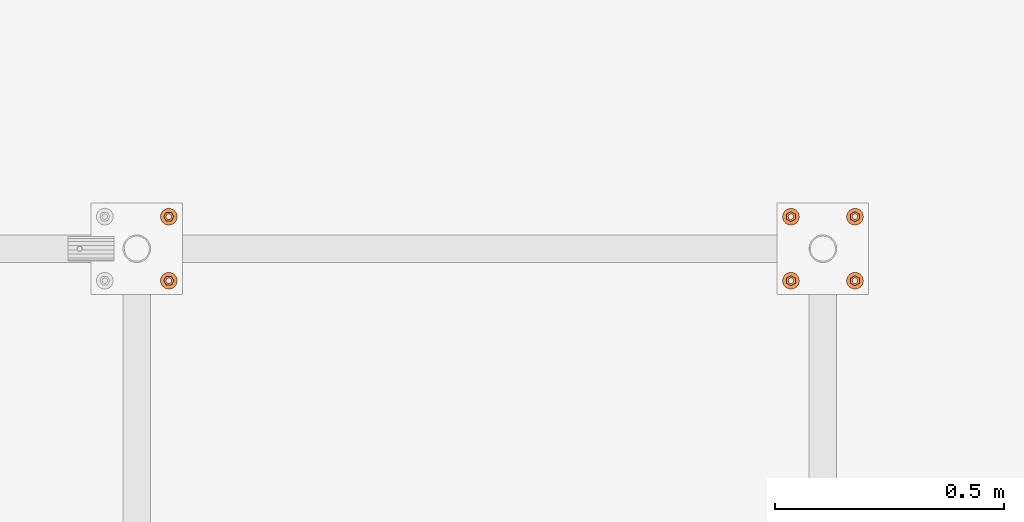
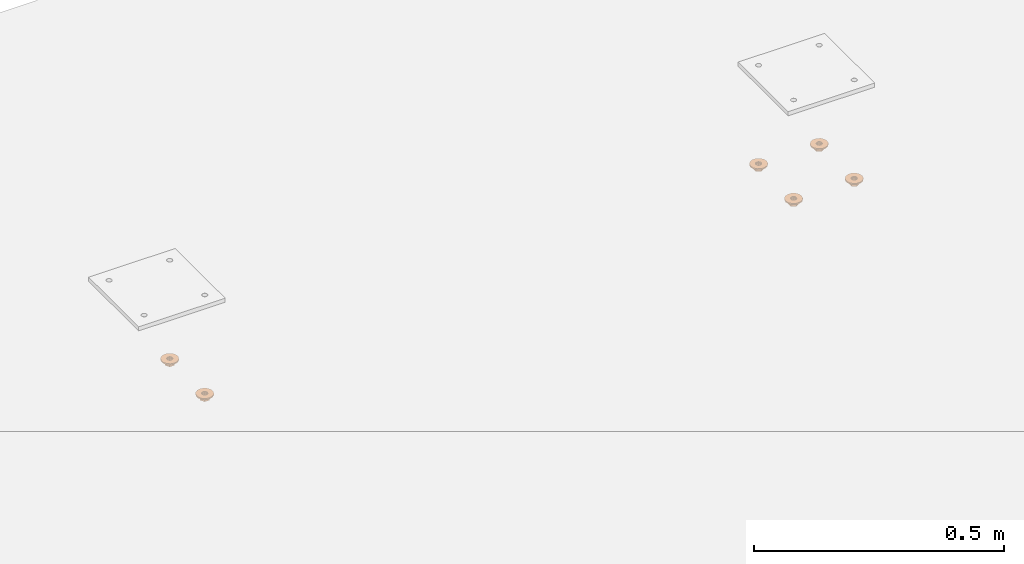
# One storey, part 30 of 30: 12 proxies.
"""IFC2X3 building model written with IfcOpenShell, lengths in millimetres."""

from ifc_helpers import new_model, entity, si_unit, converted_unit, origin_with_axes, place, context, project, spatial, faceted_brep, material, element, save


model = new_model("IFC2X3")

# Units and contexts
model_context = context("Model", 3, precision=1e-09, world=origin_with_axes())
ifc_project = project(units=[si_unit("LENGTHUNIT", "METRE", prefix="MILLI"), si_unit("AREAUNIT", "SQUARE_METRE"), si_unit("VOLUMEUNIT", "CUBIC_METRE"), converted_unit("PLANEANGLEUNIT", "DEGREE", entity("IfcPlaneAngleMeasure", 0.01745329), si_unit("PLANEANGLEUNIT", "RADIAN"), dimensions=[0, 0, 0, 0, 0, 0, 0])], contexts=[model_context])

# Site, building, storey
site_placement = place(None, origin_with_axes())
site = spatial("IfcSite", under=ifc_project, at=site_placement, Name="M?nsinger Stra?e, 81477 M?nchen", CompositionType="ELEMENT")
building_placement = place(site_placement, origin_with_axes())
building = spatial("IfcBuilding", under=site, at=building_placement, Name="Struktur 1", CompositionType="ELEMENT")
storey_placement = place(building_placement, origin_with_axes())
storey = spatial("IfcBuildingStorey", under=building, at=storey_placement, Name="Default Storey", CompositionType="ELEMENT", Elevation=0.0)

# Proxies
ifc_material = material(Name="Kein")
proxy_1_placement = place(None, origin_with_axes())
element("IfcBuildingElementProxy", 1, at=proxy_1_placement, inside=storey, material=ifc_material, ObjectType="-", context=model_context, shape_type="Brep", body=[
    faceted_brep([(8842.315117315, 4421.2632594, 6512.0), (8842.315117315, 4421.2632594, 6502.0), (8841.511269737, 4418.2632594, 6502.0), (8841.511269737, 4418.2632594, 6512.0), (8839.315117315, 4416.067106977, 6502.0), (8839.315117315, 4416.067106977, 6512.0), (8841.511269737, 4424.2632594, 6512.0), (8841.511269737, 4424.2632594, 6502.0), (8845.815117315, 4426.748086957, 6512.0), (8836.315117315, 4432.232914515, 6512.0), (8826.815117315, 4426.748086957, 6512.0), (8826.815117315, 4415.778431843, 6512.0), (8836.315117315, 4410.293604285, 6512.0), (8845.815117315, 4415.778431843, 6512.0), (8839.315117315, 4426.459411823, 6512.0), (8836.315117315, 4415.2632594, 6512.0), (8833.315117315, 4416.067106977, 6512.0), (8831.118964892, 4418.2632594, 6512.0), (8830.315117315, 4421.2632594, 6512.0), (8831.118964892, 4424.2632594, 6512.0), (8833.315117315, 4426.459411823, 6512.0), (8836.315117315, 4427.2632594, 6512.0), (8836.315117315, 4432.232914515, 6502.0), (8845.815117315, 4426.748086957, 6502.0), (8845.815117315, 4415.778431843, 6502.0), (8836.315117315, 4410.293604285, 6502.0), (8826.815117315, 4415.778431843, 6502.0), (8826.815117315, 4426.748086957, 6502.0), (8839.315117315, 4426.459411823, 6502.0), (8836.315117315, 4427.2632594, 6502.0), (8833.315117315, 4426.459411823, 6502.0), (8831.118964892, 4424.2632594, 6502.0), (8830.315117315, 4421.2632594, 6502.0), (8831.118964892, 4418.2632594, 6502.0), (8833.315117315, 4416.067106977, 6502.0), (8836.315117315, 4415.2632594, 6502.0)], [[[0, 1, 2, 3]], [[3, 2, 4, 5]], [[1, 0, 6, 7]], [[8, 9, 10, 11, 12, 13], [14, 6, 0, 3, 5, 15, 16, 17, 18, 19, 20, 21]], [[22, 23, 24, 25, 26, 27], [1, 7, 28, 29, 30, 31, 32, 33, 34, 35, 4, 2]], [[7, 6, 14, 28]], [[24, 23, 8, 13]], [[5, 4, 35, 15]], [[13, 12, 25, 24]], [[28, 14, 21, 29]], [[23, 22, 9, 8]], [[15, 35, 34, 16]], [[12, 11, 26, 25]], [[29, 21, 20, 30]], [[22, 27, 10, 9]], [[16, 34, 33, 17]], [[27, 26, 11, 10]], [[30, 20, 19, 31]], [[17, 33, 32, 18]], [[31, 19, 18, 32]]]),
])
proxy_2_placement = place(None, origin_with_axes())
element("IfcBuildingElementProxy", 2, at=proxy_2_placement, inside=storey, material=ifc_material, ObjectType="-", context=model_context, shape_type="Brep", body=[
    faceted_brep([(8847.849678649, 4406.799376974, 6515.0), (8847.849678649, 4406.799376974, 6512.0), (8852.983041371, 4413.236410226, 6512.0), (8852.983041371, 4413.236410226, 6515.0), (8832.198480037, 4403.227093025, 6515.0), (8840.431754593, 4403.227093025, 6515.0), (8854.815117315, 4421.2632594, 6515.0), (8852.983041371, 4429.290108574, 6515.0), (8847.849678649, 4435.727141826, 6515.0), (8840.431754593, 4439.299425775, 6515.0), (8832.198480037, 4439.299425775, 6515.0), (8824.78055598, 4435.727141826, 6515.0), (8819.647193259, 4429.290108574, 6515.0), (8817.815117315, 4421.2632594, 6515.0), (8819.647193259, 4413.236410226, 6515.0), (8824.78055598, 4406.799376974, 6515.0), (8839.565117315, 4415.634094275, 6515.0), (8836.315117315, 4414.7632594, 6515.0), (8833.065117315, 4415.634094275, 6515.0), (8830.68595219, 4418.0132594, 6515.0), (8829.815117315, 4421.2632594, 6515.0), (8830.68595219, 4424.5132594, 6515.0), (8833.065117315, 4426.892424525, 6515.0), (8836.315117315, 4427.7632594, 6515.0), (8839.565117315, 4426.892424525, 6515.0), (8841.944282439, 4424.5132594, 6515.0), (8842.815117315, 4421.2632594, 6515.0), (8841.944282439, 4418.0132594, 6515.0), (8852.983041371, 4429.290108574, 6512.0), (8854.815117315, 4421.2632594, 6512.0), (8840.431754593, 4403.227093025, 6512.0), (8832.198480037, 4403.227093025, 6512.0), (8824.78055598, 4406.799376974, 6512.0), (8819.647193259, 4413.236410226, 6512.0), (8817.815117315, 4421.2632594, 6512.0), (8819.647193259, 4429.290108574, 6512.0), (8824.78055598, 4435.727141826, 6512.0), (8832.198480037, 4439.299425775, 6512.0), (8840.431754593, 4439.299425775, 6512.0), (8847.849678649, 4435.727141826, 6512.0), (8842.815117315, 4421.2632594, 6512.0), (8841.944282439, 4424.5132594, 6512.0), (8839.565117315, 4426.892424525, 6512.0), (8836.315117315, 4427.7632594, 6512.0), (8833.065117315, 4426.892424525, 6512.0), (8830.68595219, 4424.5132594, 6512.0), (8829.815117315, 4421.2632594, 6512.0), (8830.68595219, 4418.0132594, 6512.0), (8833.065117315, 4415.634094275, 6512.0), (8836.315117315, 4414.7632594, 6512.0), (8839.565117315, 4415.634094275, 6512.0), (8841.944282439, 4418.0132594, 6512.0)], [[[0, 1, 2, 3]], [[4, 5, 0, 3, 6, 7, 8, 9, 10, 11, 12, 13, 14, 15], [16, 17, 18, 19, 20, 21, 22, 23, 24, 25, 26, 27]], [[28, 29, 2, 1, 30, 31, 32, 33, 34, 35, 36, 37, 38, 39], [40, 41, 42, 43, 44, 45, 46, 47, 48, 49, 50, 51]], [[1, 0, 5, 30]], [[27, 51, 50, 16]], [[51, 27, 26, 40]], [[3, 2, 29, 6]], [[30, 5, 4, 31]], [[16, 50, 49, 17]], [[40, 26, 25, 41]], [[6, 29, 28, 7]], [[31, 4, 15, 32]], [[17, 49, 48, 18]], [[41, 25, 24, 42]], [[7, 28, 39, 8]], [[32, 15, 14, 33]], [[18, 48, 47, 19]], [[42, 24, 23, 43]], [[8, 39, 38, 9]], [[33, 14, 13, 34]], [[19, 47, 46, 20]], [[22, 44, 43, 23]], [[9, 38, 37, 10]], [[45, 21, 20, 46]], [[44, 22, 21, 45]], [[34, 13, 12, 35]], [[10, 37, 36, 11]], [[35, 12, 11, 36]]]),
])
proxy_3_placement = place(None, origin_with_axes())
element("IfcBuildingElementProxy", 3, at=proxy_3_placement, inside=storey, material=ifc_material, ObjectType="-", context=model_context, shape_type="Brep", body=[
    faceted_brep([(8847.849678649, 4546.799376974, 6515.0), (8847.849678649, 4546.799376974, 6512.0), (8852.983041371, 4553.236410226, 6512.0), (8852.983041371, 4553.236410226, 6515.0), (8832.198480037, 4543.227093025, 6515.0), (8840.431754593, 4543.227093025, 6515.0), (8854.815117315, 4561.2632594, 6515.0), (8852.983041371, 4569.290108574, 6515.0), (8847.849678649, 4575.727141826, 6515.0), (8840.431754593, 4579.299425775, 6515.0), (8832.198480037, 4579.299425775, 6515.0), (8824.78055598, 4575.727141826, 6515.0), (8819.647193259, 4569.290108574, 6515.0), (8817.815117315, 4561.2632594, 6515.0), (8819.647193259, 4553.236410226, 6515.0), (8824.78055598, 4546.799376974, 6515.0), (8839.565117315, 4555.634094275, 6515.0), (8836.315117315, 4554.7632594, 6515.0), (8833.065117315, 4555.634094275, 6515.0), (8830.68595219, 4558.0132594, 6515.0), (8829.815117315, 4561.2632594, 6515.0), (8830.68595219, 4564.5132594, 6515.0), (8833.065117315, 4566.892424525, 6515.0), (8836.315117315, 4567.7632594, 6515.0), (8839.565117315, 4566.892424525, 6515.0), (8841.944282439, 4564.5132594, 6515.0), (8842.815117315, 4561.2632594, 6515.0), (8841.944282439, 4558.0132594, 6515.0), (8852.983041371, 4569.290108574, 6512.0), (8854.815117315, 4561.2632594, 6512.0), (8840.431754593, 4543.227093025, 6512.0), (8832.198480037, 4543.227093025, 6512.0), (8824.78055598, 4546.799376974, 6512.0), (8819.647193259, 4553.236410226, 6512.0), (8817.815117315, 4561.2632594, 6512.0), (8819.647193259, 4569.290108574, 6512.0), (8824.78055598, 4575.727141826, 6512.0), (8832.198480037, 4579.299425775, 6512.0), (8840.431754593, 4579.299425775, 6512.0), (8847.849678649, 4575.727141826, 6512.0), (8842.815117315, 4561.2632594, 6512.0), (8841.944282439, 4564.5132594, 6512.0), (8839.565117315, 4566.892424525, 6512.0), (8836.315117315, 4567.7632594, 6512.0), (8833.065117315, 4566.892424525, 6512.0), (8830.68595219, 4564.5132594, 6512.0), (8829.815117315, 4561.2632594, 6512.0), (8830.68595219, 4558.0132594, 6512.0), (8833.065117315, 4555.634094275, 6512.0), (8836.315117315, 4554.7632594, 6512.0), (8839.565117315, 4555.634094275, 6512.0), (8841.944282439, 4558.0132594, 6512.0)], [[[0, 1, 2, 3]], [[4, 5, 0, 3, 6, 7, 8, 9, 10, 11, 12, 13, 14, 15], [16, 17, 18, 19, 20, 21, 22, 23, 24, 25, 26, 27]], [[28, 29, 2, 1, 30, 31, 32, 33, 34, 35, 36, 37, 38, 39], [40, 41, 42, 43, 44, 45, 46, 47, 48, 49, 50, 51]], [[1, 0, 5, 30]], [[27, 51, 50, 16]], [[51, 27, 26, 40]], [[3, 2, 29, 6]], [[30, 5, 4, 31]], [[16, 50, 49, 17]], [[40, 26, 25, 41]], [[6, 29, 28, 7]], [[31, 4, 15, 32]], [[17, 49, 48, 18]], [[41, 25, 24, 42]], [[7, 28, 39, 8]], [[32, 15, 14, 33]], [[18, 48, 47, 19]], [[42, 24, 23, 43]], [[8, 39, 38, 9]], [[33, 14, 13, 34]], [[19, 47, 46, 20]], [[22, 44, 43, 23]], [[9, 38, 37, 10]], [[45, 21, 20, 46]], [[44, 22, 21, 45]], [[34, 13, 12, 35]], [[10, 37, 36, 11]], [[35, 12, 11, 36]]]),
])
proxy_4_placement = place(None, origin_with_axes())
element("IfcBuildingElementProxy", 4, at=proxy_4_placement, inside=storey, material=ifc_material, ObjectType="-", context=model_context, shape_type="Brep", body=[
    faceted_brep([(8842.315117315, 4561.2632594, 6512.0), (8842.315117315, 4561.2632594, 6502.0), (8841.511269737, 4558.2632594, 6502.0), (8841.511269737, 4558.2632594, 6512.0), (8839.315117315, 4556.067106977, 6502.0), (8839.315117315, 4556.067106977, 6512.0), (8841.511269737, 4564.2632594, 6512.0), (8841.511269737, 4564.2632594, 6502.0), (8845.815117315, 4566.748086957, 6512.0), (8836.315117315, 4572.232914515, 6512.0), (8826.815117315, 4566.748086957, 6512.0), (8826.815117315, 4555.778431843, 6512.0), (8836.315117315, 4550.293604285, 6512.0), (8845.815117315, 4555.778431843, 6512.0), (8839.315117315, 4566.459411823, 6512.0), (8836.315117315, 4555.2632594, 6512.0), (8833.315117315, 4556.067106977, 6512.0), (8831.118964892, 4558.2632594, 6512.0), (8830.315117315, 4561.2632594, 6512.0), (8831.118964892, 4564.2632594, 6512.0), (8833.315117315, 4566.459411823, 6512.0), (8836.315117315, 4567.2632594, 6512.0), (8836.315117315, 4572.232914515, 6502.0), (8845.815117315, 4566.748086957, 6502.0), (8845.815117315, 4555.778431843, 6502.0), (8836.315117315, 4550.293604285, 6502.0), (8826.815117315, 4555.778431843, 6502.0), (8826.815117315, 4566.748086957, 6502.0), (8839.315117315, 4566.459411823, 6502.0), (8836.315117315, 4567.2632594, 6502.0), (8833.315117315, 4566.459411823, 6502.0), (8831.118964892, 4564.2632594, 6502.0), (8830.315117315, 4561.2632594, 6502.0), (8831.118964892, 4558.2632594, 6502.0), (8833.315117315, 4556.067106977, 6502.0), (8836.315117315, 4555.2632594, 6502.0)], [[[0, 1, 2, 3]], [[3, 2, 4, 5]], [[1, 0, 6, 7]], [[8, 9, 10, 11, 12, 13], [14, 6, 0, 3, 5, 15, 16, 17, 18, 19, 20, 21]], [[22, 23, 24, 25, 26, 27], [1, 7, 28, 29, 30, 31, 32, 33, 34, 35, 4, 2]], [[7, 6, 14, 28]], [[24, 23, 8, 13]], [[5, 4, 35, 15]], [[13, 12, 25, 24]], [[28, 14, 21, 29]], [[23, 22, 9, 8]], [[15, 35, 34, 16]], [[12, 11, 26, 25]], [[29, 21, 20, 30]], [[22, 27, 10, 9]], [[16, 34, 33, 17]], [[27, 26, 11, 10]], [[30, 20, 19, 31]], [[17, 33, 32, 18]], [[31, 19, 18, 32]]]),
])
proxy_5_placement = place(None, origin_with_axes())
element("IfcBuildingElementProxy", 5, at=proxy_5_placement, inside=storey, material=ifc_material, ObjectType="-", context=model_context, shape_type="Brep", body=[
    faceted_brep([(8982.315117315, 4561.2632594, 6512.0), (8982.315117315, 4561.2632594, 6502.0), (8981.511269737, 4558.2632594, 6502.0), (8981.511269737, 4558.2632594, 6512.0), (8979.315117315, 4556.067106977, 6502.0), (8979.315117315, 4556.067106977, 6512.0), (8981.511269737, 4564.2632594, 6512.0), (8981.511269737, 4564.2632594, 6502.0), (8985.815117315, 4566.748086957, 6512.0), (8976.315117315, 4572.232914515, 6512.0), (8966.815117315, 4566.748086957, 6512.0), (8966.815117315, 4555.778431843, 6512.0), (8976.315117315, 4550.293604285, 6512.0), (8985.815117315, 4555.778431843, 6512.0), (8979.315117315, 4566.459411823, 6512.0), (8976.315117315, 4555.2632594, 6512.0), (8973.315117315, 4556.067106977, 6512.0), (8971.118964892, 4558.2632594, 6512.0), (8970.315117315, 4561.2632594, 6512.0), (8971.118964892, 4564.2632594, 6512.0), (8973.315117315, 4566.459411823, 6512.0), (8976.315117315, 4567.2632594, 6512.0), (8976.315117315, 4572.232914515, 6502.0), (8985.815117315, 4566.748086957, 6502.0), (8985.815117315, 4555.778431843, 6502.0), (8976.315117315, 4550.293604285, 6502.0), (8966.815117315, 4555.778431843, 6502.0), (8966.815117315, 4566.748086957, 6502.0), (8979.315117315, 4566.459411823, 6502.0), (8976.315117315, 4567.2632594, 6502.0), (8973.315117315, 4566.459411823, 6502.0), (8971.118964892, 4564.2632594, 6502.0), (8970.315117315, 4561.2632594, 6502.0), (8971.118964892, 4558.2632594, 6502.0), (8973.315117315, 4556.067106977, 6502.0), (8976.315117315, 4555.2632594, 6502.0)], [[[0, 1, 2, 3]], [[3, 2, 4, 5]], [[1, 0, 6, 7]], [[8, 9, 10, 11, 12, 13], [14, 6, 0, 3, 5, 15, 16, 17, 18, 19, 20, 21]], [[22, 23, 24, 25, 26, 27], [1, 7, 28, 29, 30, 31, 32, 33, 34, 35, 4, 2]], [[7, 6, 14, 28]], [[24, 23, 8, 13]], [[5, 4, 35, 15]], [[13, 12, 25, 24]], [[28, 14, 21, 29]], [[23, 22, 9, 8]], [[15, 35, 34, 16]], [[12, 11, 26, 25]], [[29, 21, 20, 30]], [[22, 27, 10, 9]], [[16, 34, 33, 17]], [[27, 26, 11, 10]], [[30, 20, 19, 31]], [[17, 33, 32, 18]], [[31, 19, 18, 32]]]),
])
proxy_6_placement = place(None, origin_with_axes())
element("IfcBuildingElementProxy", 6, at=proxy_6_placement, inside=storey, material=ifc_material, ObjectType="-", context=model_context, shape_type="Brep", body=[
    faceted_brep([(8987.849678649, 4546.799376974, 6515.0), (8987.849678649, 4546.799376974, 6512.0), (8992.983041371, 4553.236410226, 6512.0), (8992.983041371, 4553.236410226, 6515.0), (8972.198480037, 4543.227093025, 6515.0), (8980.431754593, 4543.227093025, 6515.0), (8994.815117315, 4561.2632594, 6515.0), (8992.983041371, 4569.290108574, 6515.0), (8987.849678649, 4575.727141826, 6515.0), (8980.431754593, 4579.299425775, 6515.0), (8972.198480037, 4579.299425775, 6515.0), (8964.78055598, 4575.727141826, 6515.0), (8959.647193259, 4569.290108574, 6515.0), (8957.815117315, 4561.2632594, 6515.0), (8959.647193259, 4553.236410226, 6515.0), (8964.78055598, 4546.799376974, 6515.0), (8979.565117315, 4555.634094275, 6515.0), (8976.315117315, 4554.7632594, 6515.0), (8973.065117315, 4555.634094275, 6515.0), (8970.68595219, 4558.0132594, 6515.0), (8969.815117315, 4561.2632594, 6515.0), (8970.68595219, 4564.5132594, 6515.0), (8973.065117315, 4566.892424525, 6515.0), (8976.315117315, 4567.7632594, 6515.0), (8979.565117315, 4566.892424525, 6515.0), (8981.944282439, 4564.5132594, 6515.0), (8982.815117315, 4561.2632594, 6515.0), (8981.944282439, 4558.0132594, 6515.0), (8992.983041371, 4569.290108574, 6512.0), (8994.815117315, 4561.2632594, 6512.0), (8980.431754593, 4543.227093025, 6512.0), (8972.198480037, 4543.227093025, 6512.0), (8964.78055598, 4546.799376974, 6512.0), (8959.647193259, 4553.236410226, 6512.0), (8957.815117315, 4561.2632594, 6512.0), (8959.647193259, 4569.290108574, 6512.0), (8964.78055598, 4575.727141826, 6512.0), (8972.198480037, 4579.299425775, 6512.0), (8980.431754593, 4579.299425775, 6512.0), (8987.849678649, 4575.727141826, 6512.0), (8982.815117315, 4561.2632594, 6512.0), (8981.944282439, 4564.5132594, 6512.0), (8979.565117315, 4566.892424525, 6512.0), (8976.315117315, 4567.7632594, 6512.0), (8973.065117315, 4566.892424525, 6512.0), (8970.68595219, 4564.5132594, 6512.0), (8969.815117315, 4561.2632594, 6512.0), (8970.68595219, 4558.0132594, 6512.0), (8973.065117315, 4555.634094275, 6512.0), (8976.315117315, 4554.7632594, 6512.0), (8979.565117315, 4555.634094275, 6512.0), (8981.944282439, 4558.0132594, 6512.0)], [[[0, 1, 2, 3]], [[4, 5, 0, 3, 6, 7, 8, 9, 10, 11, 12, 13, 14, 15], [16, 17, 18, 19, 20, 21, 22, 23, 24, 25, 26, 27]], [[28, 29, 2, 1, 30, 31, 32, 33, 34, 35, 36, 37, 38, 39], [40, 41, 42, 43, 44, 45, 46, 47, 48, 49, 50, 51]], [[1, 0, 5, 30]], [[27, 51, 50, 16]], [[51, 27, 26, 40]], [[3, 2, 29, 6]], [[30, 5, 4, 31]], [[16, 50, 49, 17]], [[40, 26, 25, 41]], [[6, 29, 28, 7]], [[31, 4, 15, 32]], [[17, 49, 48, 18]], [[41, 25, 24, 42]], [[7, 28, 39, 8]], [[32, 15, 14, 33]], [[18, 48, 47, 19]], [[42, 24, 23, 43]], [[8, 39, 38, 9]], [[33, 14, 13, 34]], [[19, 47, 46, 20]], [[22, 44, 43, 23]], [[9, 38, 37, 10]], [[45, 21, 20, 46]], [[44, 22, 21, 45]], [[34, 13, 12, 35]], [[10, 37, 36, 11]], [[35, 12, 11, 36]]]),
])
proxy_7_placement = place(None, origin_with_axes())
element("IfcBuildingElementProxy", 7, at=proxy_7_placement, inside=storey, material=ifc_material, ObjectType="-", context=model_context, shape_type="Brep", body=[
    faceted_brep([(8987.849678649, 4406.799376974, 6515.0), (8987.849678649, 4406.799376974, 6512.0), (8992.983041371, 4413.236410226, 6512.0), (8992.983041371, 4413.236410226, 6515.0), (8972.198480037, 4403.227093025, 6515.0), (8980.431754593, 4403.227093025, 6515.0), (8994.815117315, 4421.2632594, 6515.0), (8992.983041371, 4429.290108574, 6515.0), (8987.849678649, 4435.727141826, 6515.0), (8980.431754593, 4439.299425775, 6515.0), (8972.198480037, 4439.299425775, 6515.0), (8964.78055598, 4435.727141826, 6515.0), (8959.647193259, 4429.290108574, 6515.0), (8957.815117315, 4421.2632594, 6515.0), (8959.647193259, 4413.236410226, 6515.0), (8964.78055598, 4406.799376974, 6515.0), (8979.565117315, 4415.634094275, 6515.0), (8976.315117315, 4414.7632594, 6515.0), (8973.065117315, 4415.634094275, 6515.0), (8970.68595219, 4418.0132594, 6515.0), (8969.815117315, 4421.2632594, 6515.0), (8970.68595219, 4424.5132594, 6515.0), (8973.065117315, 4426.892424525, 6515.0), (8976.315117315, 4427.7632594, 6515.0), (8979.565117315, 4426.892424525, 6515.0), (8981.944282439, 4424.5132594, 6515.0), (8982.815117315, 4421.2632594, 6515.0), (8981.944282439, 4418.0132594, 6515.0), (8992.983041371, 4429.290108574, 6512.0), (8994.815117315, 4421.2632594, 6512.0), (8980.431754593, 4403.227093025, 6512.0), (8972.198480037, 4403.227093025, 6512.0), (8964.78055598, 4406.799376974, 6512.0), (8959.647193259, 4413.236410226, 6512.0), (8957.815117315, 4421.2632594, 6512.0), (8959.647193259, 4429.290108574, 6512.0), (8964.78055598, 4435.727141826, 6512.0), (8972.198480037, 4439.299425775, 6512.0), (8980.431754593, 4439.299425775, 6512.0), (8987.849678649, 4435.727141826, 6512.0), (8982.815117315, 4421.2632594, 6512.0), (8981.944282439, 4424.5132594, 6512.0), (8979.565117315, 4426.892424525, 6512.0), (8976.315117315, 4427.7632594, 6512.0), (8973.065117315, 4426.892424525, 6512.0), (8970.68595219, 4424.5132594, 6512.0), (8969.815117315, 4421.2632594, 6512.0), (8970.68595219, 4418.0132594, 6512.0), (8973.065117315, 4415.634094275, 6512.0), (8976.315117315, 4414.7632594, 6512.0), (8979.565117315, 4415.634094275, 6512.0), (8981.944282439, 4418.0132594, 6512.0)], [[[0, 1, 2, 3]], [[4, 5, 0, 3, 6, 7, 8, 9, 10, 11, 12, 13, 14, 15], [16, 17, 18, 19, 20, 21, 22, 23, 24, 25, 26, 27]], [[28, 29, 2, 1, 30, 31, 32, 33, 34, 35, 36, 37, 38, 39], [40, 41, 42, 43, 44, 45, 46, 47, 48, 49, 50, 51]], [[1, 0, 5, 30]], [[27, 51, 50, 16]], [[51, 27, 26, 40]], [[3, 2, 29, 6]], [[30, 5, 4, 31]], [[16, 50, 49, 17]], [[40, 26, 25, 41]], [[6, 29, 28, 7]], [[31, 4, 15, 32]], [[17, 49, 48, 18]], [[41, 25, 24, 42]], [[7, 28, 39, 8]], [[32, 15, 14, 33]], [[18, 48, 47, 19]], [[42, 24, 23, 43]], [[8, 39, 38, 9]], [[33, 14, 13, 34]], [[19, 47, 46, 20]], [[22, 44, 43, 23]], [[9, 38, 37, 10]], [[45, 21, 20, 46]], [[44, 22, 21, 45]], [[34, 13, 12, 35]], [[10, 37, 36, 11]], [[35, 12, 11, 36]]]),
])
proxy_8_placement = place(None, origin_with_axes())
element("IfcBuildingElementProxy", 8, at=proxy_8_placement, inside=storey, material=ifc_material, ObjectType="-", context=model_context, shape_type="Brep", body=[
    faceted_brep([(8982.315117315, 4421.2632594, 6512.0), (8982.315117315, 4421.2632594, 6502.0), (8981.511269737, 4418.2632594, 6502.0), (8981.511269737, 4418.2632594, 6512.0), (8979.315117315, 4416.067106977, 6502.0), (8979.315117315, 4416.067106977, 6512.0), (8981.511269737, 4424.2632594, 6512.0), (8981.511269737, 4424.2632594, 6502.0), (8985.815117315, 4426.748086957, 6512.0), (8976.315117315, 4432.232914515, 6512.0), (8966.815117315, 4426.748086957, 6512.0), (8966.815117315, 4415.778431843, 6512.0), (8976.315117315, 4410.293604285, 6512.0), (8985.815117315, 4415.778431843, 6512.0), (8979.315117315, 4426.459411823, 6512.0), (8976.315117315, 4415.2632594, 6512.0), (8973.315117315, 4416.067106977, 6512.0), (8971.118964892, 4418.2632594, 6512.0), (8970.315117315, 4421.2632594, 6512.0), (8971.118964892, 4424.2632594, 6512.0), (8973.315117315, 4426.459411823, 6512.0), (8976.315117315, 4427.2632594, 6512.0), (8976.315117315, 4432.232914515, 6502.0), (8985.815117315, 4426.748086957, 6502.0), (8985.815117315, 4415.778431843, 6502.0), (8976.315117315, 4410.293604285, 6502.0), (8966.815117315, 4415.778431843, 6502.0), (8966.815117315, 4426.748086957, 6502.0), (8979.315117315, 4426.459411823, 6502.0), (8976.315117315, 4427.2632594, 6502.0), (8973.315117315, 4426.459411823, 6502.0), (8971.118964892, 4424.2632594, 6502.0), (8970.315117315, 4421.2632594, 6502.0), (8971.118964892, 4418.2632594, 6502.0), (8973.315117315, 4416.067106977, 6502.0), (8976.315117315, 4415.2632594, 6502.0)], [[[0, 1, 2, 3]], [[3, 2, 4, 5]], [[1, 0, 6, 7]], [[8, 9, 10, 11, 12, 13], [14, 6, 0, 3, 5, 15, 16, 17, 18, 19, 20, 21]], [[22, 23, 24, 25, 26, 27], [1, 7, 28, 29, 30, 31, 32, 33, 34, 35, 4, 2]], [[7, 6, 14, 28]], [[24, 23, 8, 13]], [[5, 4, 35, 15]], [[13, 12, 25, 24]], [[28, 14, 21, 29]], [[23, 22, 9, 8]], [[15, 35, 34, 16]], [[12, 11, 26, 25]], [[29, 21, 20, 30]], [[22, 27, 10, 9]], [[16, 34, 33, 17]], [[27, 26, 11, 10]], [[30, 20, 19, 31]], [[17, 33, 32, 18]], [[31, 19, 18, 32]]]),
])
proxy_9_placement = place(None, origin_with_axes())
element("IfcBuildingElementProxy", 9, at=proxy_9_placement, inside=storey, material=ifc_material, ObjectType="-", context=model_context, shape_type="Brep", body=[
    faceted_brep([(7461.851234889, 4432.797820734, 6512.0), (7461.851234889, 4432.797820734, 6515.0), (7468.288268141, 4437.931183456, 6515.0), (7468.288268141, 4437.931183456, 6512.0), (7458.278950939, 4425.379896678, 6515.0), (7458.278950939, 4417.146622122, 6515.0), (7461.851234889, 4409.728698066, 6515.0), (7468.288268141, 4404.595335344, 6515.0), (7476.315117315, 4402.7632594, 6515.0), (7484.341966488, 4404.595335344, 6515.0), (7490.77899974, 4409.728698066, 6515.0), (7494.35128369, 4417.146622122, 6515.0), (7494.35128369, 4425.379896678, 6515.0), (7490.77899974, 4432.797820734, 6515.0), (7484.341966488, 4437.931183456, 6515.0), (7476.315117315, 4439.7632594, 6515.0), (7470.68595219, 4424.5132594, 6515.0), (7473.065117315, 4426.892424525, 6515.0), (7476.315117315, 4427.7632594, 6515.0), (7479.565117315, 4426.892424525, 6515.0), (7481.944282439, 4424.5132594, 6515.0), (7482.815117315, 4421.2632594, 6515.0), (7481.944282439, 4418.0132594, 6515.0), (7479.565117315, 4415.634094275, 6515.0), (7476.315117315, 4414.7632594, 6515.0), (7473.065117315, 4415.634094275, 6515.0), (7470.68595219, 4418.0132594, 6515.0), (7469.815117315, 4421.2632594, 6515.0), (7476.315117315, 4439.7632594, 6512.0), (7484.341966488, 4437.931183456, 6512.0), (7490.77899974, 4432.797820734, 6512.0), (7494.35128369, 4425.379896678, 6512.0), (7494.35128369, 4417.146622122, 6512.0), (7490.77899974, 4409.728698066, 6512.0), (7484.341966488, 4404.595335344, 6512.0), (7476.315117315, 4402.7632594, 6512.0), (7468.288268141, 4404.595335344, 6512.0), (7461.851234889, 4409.728698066, 6512.0), (7458.278950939, 4417.146622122, 6512.0), (7458.278950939, 4425.379896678, 6512.0), (7476.315117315, 4427.7632594, 6512.0), (7473.065117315, 4426.892424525, 6512.0), (7470.68595219, 4424.5132594, 6512.0), (7469.815117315, 4421.2632594, 6512.0), (7470.68595219, 4418.0132594, 6512.0), (7473.065117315, 4415.634094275, 6512.0), (7476.315117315, 4414.7632594, 6512.0), (7479.565117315, 4415.634094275, 6512.0), (7481.944282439, 4418.0132594, 6512.0), (7482.815117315, 4421.2632594, 6512.0), (7481.944282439, 4424.5132594, 6512.0), (7479.565117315, 4426.892424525, 6512.0)], [[[0, 1, 2, 3]], [[4, 5, 6, 7, 8, 9, 10, 11, 12, 13, 14, 15, 2, 1], [16, 17, 18, 19, 20, 21, 22, 23, 24, 25, 26, 27]], [[28, 29, 30, 31, 32, 33, 34, 35, 36, 37, 38, 39, 0, 3], [40, 41, 42, 43, 44, 45, 46, 47, 48, 49, 50, 51]], [[1, 0, 39, 4]], [[41, 17, 16, 42]], [[17, 41, 40, 18]], [[3, 2, 15, 28]], [[4, 39, 38, 5]], [[42, 16, 27, 43]], [[18, 40, 51, 19]], [[28, 15, 14, 29]], [[5, 38, 37, 6]], [[43, 27, 26, 44]], [[19, 51, 50, 20]], [[29, 14, 13, 30]], [[6, 37, 36, 7]], [[44, 26, 25, 45]], [[20, 50, 49, 21]], [[30, 13, 12, 31]], [[7, 36, 35, 8]], [[45, 25, 24, 46]], [[48, 22, 21, 49]], [[31, 12, 11, 32]], [[23, 47, 46, 24]], [[22, 48, 47, 23]], [[8, 35, 34, 9]], [[32, 11, 10, 33]], [[9, 34, 33, 10]]]),
])
proxy_10_placement = place(None, origin_with_axes())
element("IfcBuildingElementProxy", 10, at=proxy_10_placement, inside=storey, material=ifc_material, ObjectType="-", context=model_context, shape_type="Brep", body=[
    faceted_brep([(7476.315117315, 4427.2632594, 6502.0), (7476.315117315, 4427.2632594, 6512.0), (7473.315117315, 4426.459411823, 6512.0), (7473.315117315, 4426.459411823, 6502.0), (7471.118964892, 4424.2632594, 6512.0), (7471.118964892, 4424.2632594, 6502.0), (7479.315117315, 4426.459411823, 6502.0), (7479.315117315, 4426.459411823, 6512.0), (7481.799944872, 4430.7632594, 6512.0), (7470.830289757, 4430.7632594, 6512.0), (7465.3454622, 4421.2632594, 6512.0), (7470.830289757, 4411.7632594, 6512.0), (7481.799944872, 4411.7632594, 6512.0), (7487.284772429, 4421.2632594, 6512.0), (7481.511269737, 4424.2632594, 6512.0), (7482.315117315, 4421.2632594, 6512.0), (7481.511269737, 4418.2632594, 6512.0), (7479.315117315, 4416.067106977, 6512.0), (7476.315117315, 4415.2632594, 6512.0), (7473.315117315, 4416.067106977, 6512.0), (7471.118964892, 4418.2632594, 6512.0), (7470.315117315, 4421.2632594, 6512.0), (7481.799944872, 4430.7632594, 6502.0), (7487.284772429, 4421.2632594, 6502.0), (7481.799944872, 4411.7632594, 6502.0), (7470.830289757, 4411.7632594, 6502.0), (7465.3454622, 4421.2632594, 6502.0), (7470.830289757, 4430.7632594, 6502.0), (7481.511269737, 4424.2632594, 6502.0), (7470.315117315, 4421.2632594, 6502.0), (7482.315117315, 4421.2632594, 6502.0), (7471.118964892, 4418.2632594, 6502.0), (7481.511269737, 4418.2632594, 6502.0), (7473.315117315, 4416.067106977, 6502.0), (7479.315117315, 4416.067106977, 6502.0), (7476.315117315, 4415.2632594, 6502.0)], [[[0, 1, 2, 3]], [[3, 2, 4, 5]], [[1, 0, 6, 7]], [[8, 9, 10, 11, 12, 13], [7, 14, 15, 16, 17, 18, 19, 20, 21, 4, 2, 1]], [[22, 23, 24, 25, 26, 27]], [[7, 6, 28, 14]], [[22, 27, 9, 8]], [[5, 4, 21, 29]], [[10, 9, 27, 26]], [[14, 28, 30, 15]], [[23, 22, 8, 13]], [[29, 21, 20, 31]], [[11, 10, 26, 25]], [[15, 30, 32, 16]], [[24, 23, 13, 12]], [[31, 20, 19, 33]], [[25, 24, 12, 11]], [[16, 32, 34, 17]], [[33, 19, 18, 35]], [[17, 34, 35, 18]]]),
])
proxy_11_placement = place(None, origin_with_axes())
element("IfcBuildingElementProxy", 11, at=proxy_11_placement, inside=storey, material=ifc_material, ObjectType="-", context=model_context, shape_type="Brep", body=[
    faceted_brep([(7476.315117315, 4567.2632594, 6502.0), (7476.315117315, 4567.2632594, 6512.0), (7473.315117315, 4566.459411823, 6512.0), (7473.315117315, 4566.459411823, 6502.0), (7471.118964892, 4564.2632594, 6512.0), (7471.118964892, 4564.2632594, 6502.0), (7479.315117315, 4566.459411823, 6502.0), (7479.315117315, 4566.459411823, 6512.0), (7481.799944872, 4570.7632594, 6512.0), (7470.830289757, 4570.7632594, 6512.0), (7465.3454622, 4561.2632594, 6512.0), (7470.830289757, 4551.7632594, 6512.0), (7481.799944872, 4551.7632594, 6512.0), (7487.284772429, 4561.2632594, 6512.0), (7481.511269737, 4564.2632594, 6512.0), (7482.315117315, 4561.2632594, 6512.0), (7481.511269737, 4558.2632594, 6512.0), (7479.315117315, 4556.067106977, 6512.0), (7476.315117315, 4555.2632594, 6512.0), (7473.315117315, 4556.067106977, 6512.0), (7471.118964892, 4558.2632594, 6512.0), (7470.315117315, 4561.2632594, 6512.0), (7481.799944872, 4570.7632594, 6502.0), (7487.284772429, 4561.2632594, 6502.0), (7481.799944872, 4551.7632594, 6502.0), (7470.830289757, 4551.7632594, 6502.0), (7465.3454622, 4561.2632594, 6502.0), (7470.830289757, 4570.7632594, 6502.0), (7481.511269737, 4564.2632594, 6502.0), (7470.315117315, 4561.2632594, 6502.0), (7482.315117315, 4561.2632594, 6502.0), (7471.118964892, 4558.2632594, 6502.0), (7481.511269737, 4558.2632594, 6502.0), (7473.315117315, 4556.067106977, 6502.0), (7479.315117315, 4556.067106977, 6502.0), (7476.315117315, 4555.2632594, 6502.0)], [[[0, 1, 2, 3]], [[3, 2, 4, 5]], [[1, 0, 6, 7]], [[8, 9, 10, 11, 12, 13], [7, 14, 15, 16, 17, 18, 19, 20, 21, 4, 2, 1]], [[22, 23, 24, 25, 26, 27]], [[7, 6, 28, 14]], [[22, 27, 9, 8]], [[5, 4, 21, 29]], [[10, 9, 27, 26]], [[14, 28, 30, 15]], [[23, 22, 8, 13]], [[29, 21, 20, 31]], [[11, 10, 26, 25]], [[15, 30, 32, 16]], [[24, 23, 13, 12]], [[31, 20, 19, 33]], [[25, 24, 12, 11]], [[16, 32, 34, 17]], [[33, 19, 18, 35]], [[17, 34, 35, 18]]]),
])
proxy_12_placement = place(None, origin_with_axes())
element("IfcBuildingElementProxy", 12, at=proxy_12_placement, inside=storey, material=ifc_material, ObjectType="-", context=model_context, shape_type="Brep", body=[
    faceted_brep([(7461.851234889, 4572.797820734, 6512.0), (7461.851234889, 4572.797820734, 6515.0), (7468.288268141, 4577.931183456, 6515.0), (7468.288268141, 4577.931183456, 6512.0), (7458.278950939, 4565.379896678, 6515.0), (7458.278950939, 4557.146622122, 6515.0), (7461.851234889, 4549.728698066, 6515.0), (7468.288268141, 4544.595335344, 6515.0), (7476.315117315, 4542.7632594, 6515.0), (7484.341966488, 4544.595335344, 6515.0), (7490.77899974, 4549.728698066, 6515.0), (7494.35128369, 4557.146622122, 6515.0), (7494.35128369, 4565.379896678, 6515.0), (7490.77899974, 4572.797820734, 6515.0), (7484.341966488, 4577.931183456, 6515.0), (7476.315117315, 4579.7632594, 6515.0), (7470.68595219, 4564.5132594, 6515.0), (7473.065117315, 4566.892424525, 6515.0), (7476.315117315, 4567.7632594, 6515.0), (7479.565117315, 4566.892424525, 6515.0), (7481.944282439, 4564.5132594, 6515.0), (7482.815117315, 4561.2632594, 6515.0), (7481.944282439, 4558.0132594, 6515.0), (7479.565117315, 4555.634094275, 6515.0), (7476.315117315, 4554.7632594, 6515.0), (7473.065117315, 4555.634094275, 6515.0), (7470.68595219, 4558.0132594, 6515.0), (7469.815117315, 4561.2632594, 6515.0), (7476.315117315, 4579.7632594, 6512.0), (7484.341966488, 4577.931183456, 6512.0), (7490.77899974, 4572.797820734, 6512.0), (7494.35128369, 4565.379896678, 6512.0), (7494.35128369, 4557.146622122, 6512.0), (7490.77899974, 4549.728698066, 6512.0), (7484.341966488, 4544.595335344, 6512.0), (7476.315117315, 4542.7632594, 6512.0), (7468.288268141, 4544.595335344, 6512.0), (7461.851234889, 4549.728698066, 6512.0), (7458.278950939, 4557.146622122, 6512.0), (7458.278950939, 4565.379896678, 6512.0), (7476.315117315, 4567.7632594, 6512.0), (7473.065117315, 4566.892424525, 6512.0), (7470.68595219, 4564.5132594, 6512.0), (7469.815117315, 4561.2632594, 6512.0), (7470.68595219, 4558.0132594, 6512.0), (7473.065117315, 4555.634094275, 6512.0), (7476.315117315, 4554.7632594, 6512.0), (7479.565117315, 4555.634094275, 6512.0), (7481.944282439, 4558.0132594, 6512.0), (7482.815117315, 4561.2632594, 6512.0), (7481.944282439, 4564.5132594, 6512.0), (7479.565117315, 4566.892424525, 6512.0)], [[[0, 1, 2, 3]], [[4, 5, 6, 7, 8, 9, 10, 11, 12, 13, 14, 15, 2, 1], [16, 17, 18, 19, 20, 21, 22, 23, 24, 25, 26, 27]], [[28, 29, 30, 31, 32, 33, 34, 35, 36, 37, 38, 39, 0, 3], [40, 41, 42, 43, 44, 45, 46, 47, 48, 49, 50, 51]], [[1, 0, 39, 4]], [[41, 17, 16, 42]], [[17, 41, 40, 18]], [[3, 2, 15, 28]], [[4, 39, 38, 5]], [[42, 16, 27, 43]], [[18, 40, 51, 19]], [[28, 15, 14, 29]], [[5, 38, 37, 6]], [[43, 27, 26, 44]], [[19, 51, 50, 20]], [[29, 14, 13, 30]], [[6, 37, 36, 7]], [[44, 26, 25, 45]], [[20, 50, 49, 21]], [[30, 13, 12, 31]], [[7, 36, 35, 8]], [[45, 25, 24, 46]], [[48, 22, 21, 49]], [[31, 12, 11, 32]], [[23, 47, 46, 24]], [[22, 48, 47, 23]], [[8, 35, 34, 9]], [[32, 11, 10, 33]], [[9, 34, 33, 10]]]),
])

save(model, "model.ifc")
